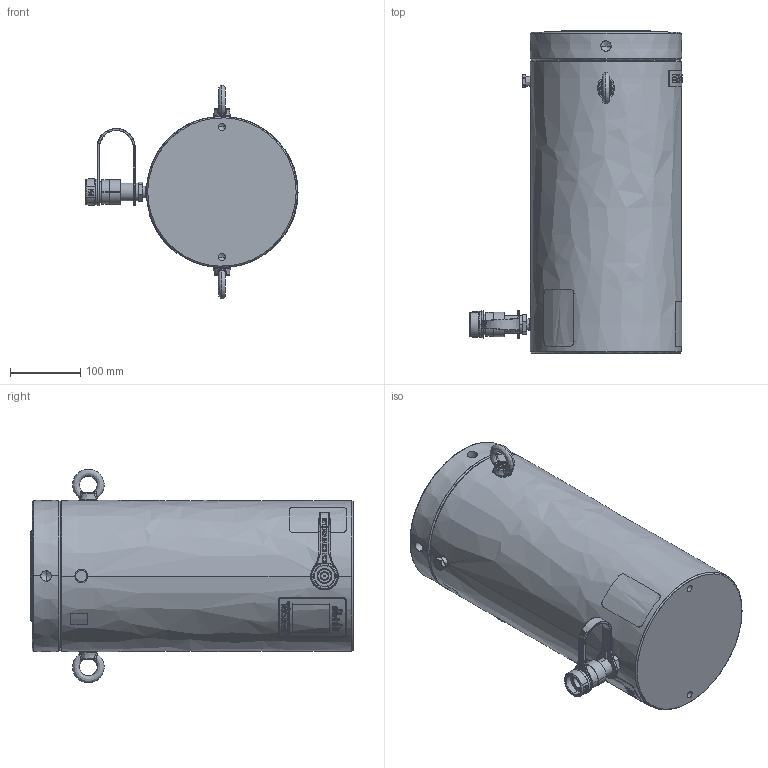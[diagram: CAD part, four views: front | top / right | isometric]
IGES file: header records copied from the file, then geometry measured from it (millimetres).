
Start section:  PTC IGES file: hcl15012.igs
Global section: file name: hcl15012.igs; native system: Creo Parametric by PTC Inc.; preprocessor: 2015290; author: Akhilesh.Subrahmanya; organization: Unknown; date: 20170621.112605; units: millimetre
Bounding box: 301.62 x 459 x 304 mm (x, y, z)
Surface area: 629317.5 mm2 (no closed solid volume)
Topology: 0 solids, 0 shells, 584 faces, 5824 edges, 5808 vertices
Faces by surface type: revolution 369, bspline 205, extrusion 10
